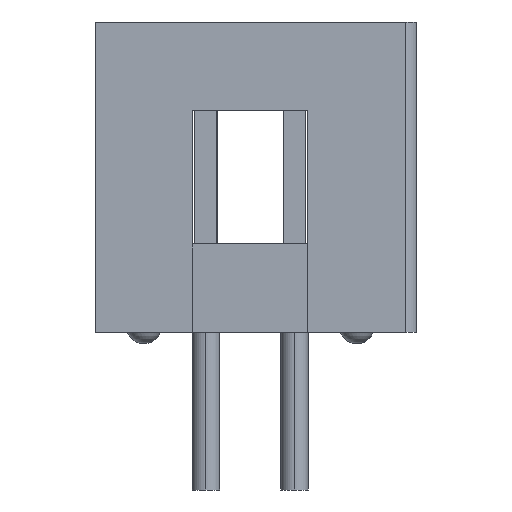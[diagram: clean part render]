
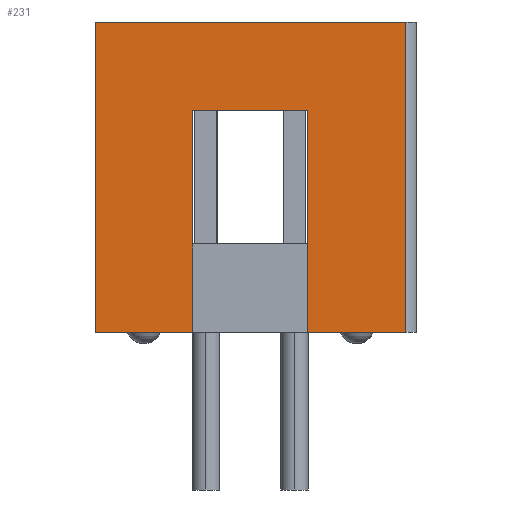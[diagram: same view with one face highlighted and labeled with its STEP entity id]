
A CAD part, left-side view. The second image highlights one B-rep face of the part: STEP entity #231.
In plain terms, the highlighted planar face has unit normal (-1, 0, 0).
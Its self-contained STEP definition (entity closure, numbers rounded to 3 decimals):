
#231=ADVANCED_FACE('',(#768),#769,.T.);
#768=FACE_OUTER_BOUND('',#1413,.T.);
#769=PLANE('',#1414);
#1413=EDGE_LOOP('',(#3229,#3230,#3231,#3232,#3233,#3234,#3235,#3236));
#1414=AXIS2_PLACEMENT_3D('',#3237,#3238,#3239);
#3229=ORIENTED_EDGE('',*,*,#4526,.F.);
#3230=ORIENTED_EDGE('',*,*,#3958,.T.);
#3231=ORIENTED_EDGE('',*,*,#4471,.F.);
#3232=ORIENTED_EDGE('',*,*,#4391,.F.);
#3233=ORIENTED_EDGE('',*,*,#4525,.T.);
#3234=ORIENTED_EDGE('',*,*,#4488,.F.);
#3235=ORIENTED_EDGE('',*,*,#4527,.F.);
#3236=ORIENTED_EDGE('',*,*,#4387,.F.);
#3237=CARTESIAN_POINT('',(-20.32,4.445,0.0));
#3238=DIRECTION('',(-1.0,0.0,0.0));
#3239=DIRECTION('',(0.0,0.0,1.0));
#3958=EDGE_CURVE('',#4686,#4684,#4687,.T.);
#4387=EDGE_CURVE('',#5420,#5422,#5423,.T.);
#4391=EDGE_CURVE('',#5428,#5430,#5431,.T.);
#4471=EDGE_CURVE('',#5430,#4684,#5580,.T.);
#4488=EDGE_CURVE('',#5607,#5602,#5609,.T.);
#4525=EDGE_CURVE('',#5428,#5602,#5653,.T.);
#4526=EDGE_CURVE('',#4686,#5420,#5654,.T.);
#4527=EDGE_CURVE('',#5422,#5607,#5655,.T.);
#4684=VERTEX_POINT('',#5885);
#4686=VERTEX_POINT('',#5888);
#4687=LINE('',#5889,#5890);
#5420=VERTEX_POINT('',#7041);
#5422=VERTEX_POINT('',#7044);
#5423=LINE('',#7045,#7046);
#5428=VERTEX_POINT('',#7053);
#5430=VERTEX_POINT('',#7056);
#5431=LINE('',#7057,#7058);
#5580=LINE('',#7214,#7215);
#5602=VERTEX_POINT('',#7248);
#5607=VERTEX_POINT('',#7255);
#5609=LINE('',#7258,#7259);
#5653=LINE('',#7349,#7350);
#5654=LINE('',#7351,#7352);
#5655=LINE('',#7353,#7354);
#5885=CARTESIAN_POINT('',(-20.32,4.445,0.0));
#5888=CARTESIAN_POINT('',(-20.32,-4.445,0.0));
#5889=CARTESIAN_POINT('',(-20.32,-4.445,0.0));
#5890=VECTOR('',#7654,8.89);
#7041=CARTESIAN_POINT('',(-20.32,-4.445,-8.89));
#7044=CARTESIAN_POINT('',(-20.32,-1.651,-8.89));
#7045=CARTESIAN_POINT('',(-20.32,-4.445,-8.89));
#7046=VECTOR('',#8101,2.794);
#7053=CARTESIAN_POINT('',(-20.32,1.651,-8.89));
#7056=CARTESIAN_POINT('',(-20.32,4.445,-8.89));
#7057=CARTESIAN_POINT('',(-20.32,1.651,-8.89));
#7058=VECTOR('',#8105,2.794);
#7214=CARTESIAN_POINT('',(-20.32,4.445,-8.89));
#7215=VECTOR('',#8329,8.89);
#7248=CARTESIAN_POINT('',(-20.32,1.651,-2.54));
#7255=CARTESIAN_POINT('',(-20.32,-1.651,-2.54));
#7258=CARTESIAN_POINT('',(-20.32,-1.651,-2.54));
#7259=VECTOR('',#8350,3.302);
#7349=CARTESIAN_POINT('',(-20.32,1.651,-8.89));
#7350=VECTOR('',#8385,6.35);
#7351=CARTESIAN_POINT('',(-20.32,-4.445,0.0));
#7352=VECTOR('',#8386,8.89);
#7353=CARTESIAN_POINT('',(-20.32,-1.651,-8.89));
#7354=VECTOR('',#8387,6.35);
#7654=DIRECTION('',(0.0,1.0,0.0));
#8101=DIRECTION('',(0.0,1.0,0.0));
#8105=DIRECTION('',(0.0,1.0,0.0));
#8329=DIRECTION('',(0.0,0.0,1.0));
#8350=DIRECTION('',(0.0,1.0,0.0));
#8385=DIRECTION('',(0.0,0.0,1.0));
#8386=DIRECTION('',(0.0,0.0,-1.0));
#8387=DIRECTION('',(0.0,0.0,1.0));
